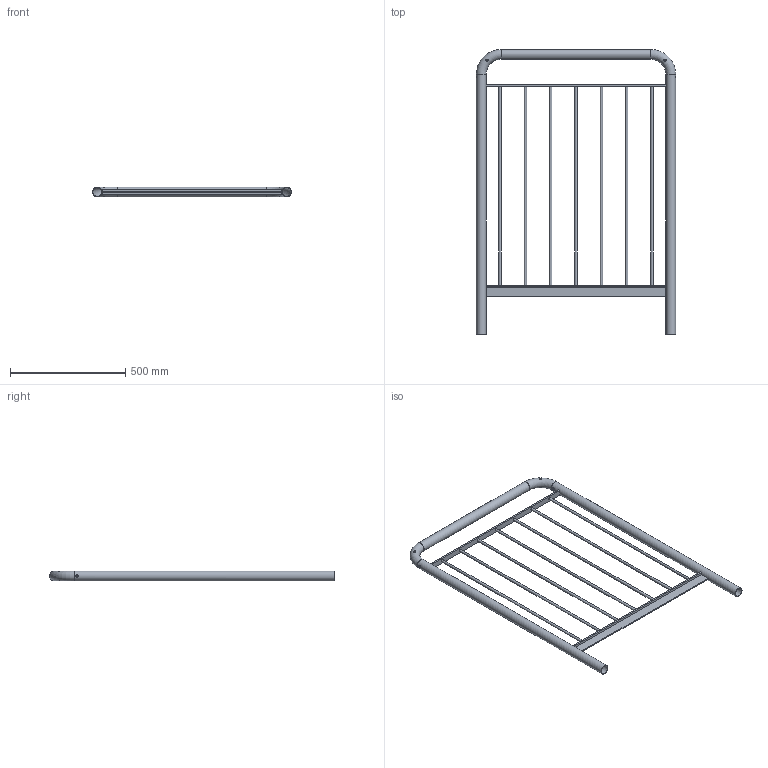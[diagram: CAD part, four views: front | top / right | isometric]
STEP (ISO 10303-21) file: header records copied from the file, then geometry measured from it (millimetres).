
FILE_DESCRIPTION((''),'2;1');
FILE_NAME('S:\Användarkataloger\AndreasA\Mina Inventor filer\Räcken\STEP\modul_bos_900-1216.stp','2010-09-07T13:29:23',('AndreasA'),(''),'Autodesk Inventor 2011','Autodesk Inventor 2011','');
FILE_SCHEMA(('AUTOMOTIVE_DESIGN { 1 0 10303 214 1 1 1 1 }'));
Length unit declared in the file: millimetre
Products named in the file (4): modul_bos_900-1216; handledare_modul_900-1216; galleri_modul_900; pls_modul_bos_900
Assembly tree (3 placements, depth 2):
  modul_bos_900-1216
    handledare_modul_900-1216
    galleri_modul_900
    pls_modul_bos_900
Bounding box: 865.4 x 1237.2 x 42.4 mm (x, y, z)
Volume: 1849123.1 mm3; surface area: 1189213.9 mm2
Topology: 3 solids, 3 shells, 45 faces, 115 edges, 74 vertices
Faces by surface type: cylinder 21, plane 20, torus 4
Full cylindrical faces by diameter (mm): 10 x4, 11 x11, 38.4 x3, 42.4 x3
Entity records: 1997 total; most frequent: CARTESIAN_POINT 912, DIRECTION 192, ORIENTED_EDGE 156, EDGE_LOOP 102, AXIS2_PLACEMENT_3D 78, EDGE_CURVE 78, VERTEX_POINT 66, FACE_BOUND 57
